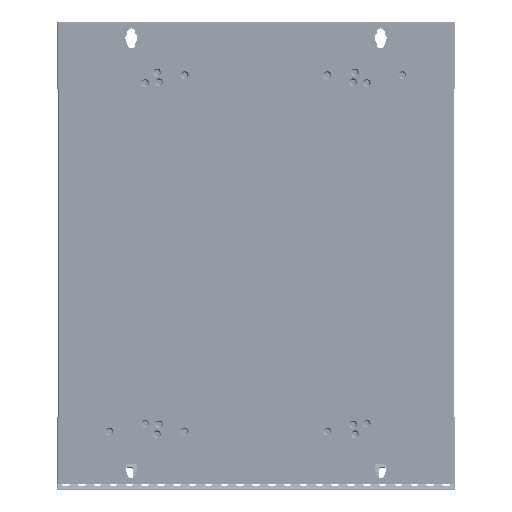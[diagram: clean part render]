
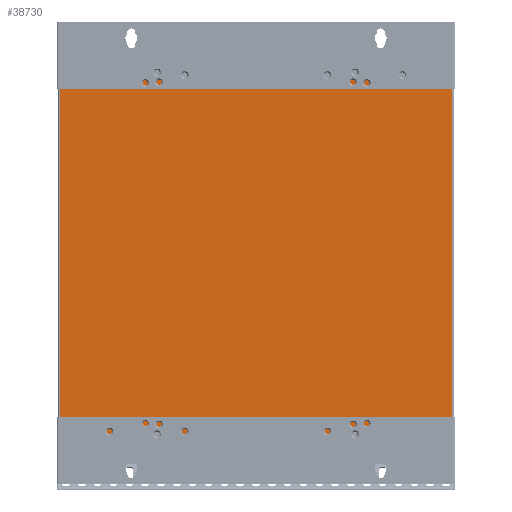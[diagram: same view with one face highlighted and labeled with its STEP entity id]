
A CAD part, front view. The second image highlights one B-rep face of the part: STEP entity #38730.
In plain terms, the highlighted planar face has unit normal (0, -1, 0).
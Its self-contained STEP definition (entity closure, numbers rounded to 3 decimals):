
#2496 = ORIENTED_EDGE ( 'NONE', *, *, #44353, .F. ) ;
#12568 = CARTESIAN_POINT ( 'NONE',  ( 0., -1.5, 0. ) ) ;
#13505 = LINE ( 'NONE', #325755, #313152 ) ;
#29346 = EDGE_LOOP ( 'NONE', ( #158416, #287495 ) ) ;
#30083 = ORIENTED_EDGE ( 'NONE', *, *, #270775, .T. ) ;
#38730 = ADVANCED_FACE ( 'NONE', ( #324784, #207414, #244905 ), #247348, .T. ) ;
#44353 = EDGE_CURVE ( 'NONE', #311889, #63124, #159519, .T. ) ;
#61116 = DIRECTION ( 'NONE',  ( 0., -1., 0. ) ) ;
#63124 = VERTEX_POINT ( 'NONE', #479293 ) ;
#83478 = CIRCLE ( 'NONE', #251126, 3.25 ) ;
#84784 = EDGE_CURVE ( 'NONE', #358347, #171177, #215597, .T. ) ;
#98345 = DIRECTION ( 'NONE',  ( 0., -1., 0. ) ) ;
#104335 = EDGE_LOOP ( 'NONE', ( #382303, #2496 ) ) ;
#112989 = CARTESIAN_POINT ( 'NONE',  ( 248., -1.5, -228.5 ) ) ;
#115279 = VERTEX_POINT ( 'NONE', #431906 ) ;
#129189 = DIRECTION ( 'NONE',  ( 0., -1., 0. ) ) ;
#129217 = LINE ( 'NONE', #249036, #156206 ) ;
#144990 = CARTESIAN_POINT ( 'NONE',  ( -125., -1.5, -220. ) ) ;
#152453 = CARTESIAN_POINT ( 'NONE',  ( -125., -1.5, -216.75 ) ) ;
#156206 = VECTOR ( 'NONE', #174081, 1000. ) ;
#158416 = ORIENTED_EDGE ( 'NONE', *, *, #195045, .F. ) ;
#158446 = EDGE_CURVE ( 'NONE', #420510, #115279, #292536, .T. ) ;
#159519 = CIRCLE ( 'NONE', #438881, 3.25 ) ;
#159964 = AXIS2_PLACEMENT_3D ( 'NONE', #144990, #262347, #482489 ) ;
#160581 = EDGE_CURVE ( 'NONE', #192821, #115279, #129217, .T. ) ;
#165965 = DIRECTION ( 'NONE',  ( -1., 0., 0. ) ) ;
#168019 = CARTESIAN_POINT ( 'NONE',  ( -248., -1.5, 226.9 ) ) ;
#171177 = VERTEX_POINT ( 'NONE', #152453 ) ;
#174081 = DIRECTION ( 'NONE',  ( -1., 0., 0. ) ) ;
#180109 = DIRECTION ( 'NONE',  ( 0., 0., -1. ) ) ;
#192821 = VERTEX_POINT ( 'NONE', #112989 ) ;
#195045 = EDGE_CURVE ( 'NONE', #171177, #358347, #317490, .T. ) ;
#200015 = EDGE_CURVE ( 'NONE', #476748, #420510, #13505, .T. ) ;
#206842 = EDGE_CURVE ( 'NONE', #63124, #311889, #83478, .T. ) ;
#207414 = FACE_BOUND ( 'NONE', #29346, .T. ) ;
#208393 = DIRECTION ( 'NONE',  ( 0., 0., -1. ) ) ;
#215597 = CIRCLE ( 'NONE', #159964, 3.25 ) ;
#240401 = AXIS2_PLACEMENT_3D ( 'NONE', #12568, #469894, #477253 ) ;
#244905 = FACE_OUTER_BOUND ( 'NONE', #337940, .T. ) ;
#247348 = PLANE ( 'NONE',  #240401 ) ;
#249036 = CARTESIAN_POINT ( 'NONE',  ( -250., -1.5, -228.5 ) ) ;
#250965 = CARTESIAN_POINT ( 'NONE',  ( 125., -1.5, -223.25 ) ) ;
#251126 = AXIS2_PLACEMENT_3D ( 'NONE', #400803, #98345, #208393 ) ;
#259833 = CARTESIAN_POINT ( 'NONE',  ( 248., -1.5, -228.5 ) ) ;
#262347 = DIRECTION ( 'NONE',  ( 0., -1., 0. ) ) ;
#270775 = EDGE_CURVE ( 'NONE', #192821, #476748, #284992, .T. ) ;
#274652 = VECTOR ( 'NONE', #180109, 1000. ) ;
#284992 = LINE ( 'NONE', #259833, #314953 ) ;
#287495 = ORIENTED_EDGE ( 'NONE', *, *, #84784, .F. ) ;
#292536 = LINE ( 'NONE', #330054, #274652 ) ;
#311889 = VERTEX_POINT ( 'NONE', #250965 ) ;
#313152 = VECTOR ( 'NONE', #165965, 1000. ) ;
#314953 = VECTOR ( 'NONE', #324941, 1000. ) ;
#317490 = CIRCLE ( 'NONE', #397077, 3.25 ) ;
#324784 = FACE_BOUND ( 'NONE', #104335, .T. ) ;
#324941 = DIRECTION ( 'NONE',  ( 0., 0., 1. ) ) ;
#325755 = CARTESIAN_POINT ( 'NONE',  ( 248., -1.5, 226.9 ) ) ;
#329165 = ORIENTED_EDGE ( 'NONE', *, *, #160581, .F. ) ;
#330054 = CARTESIAN_POINT ( 'NONE',  ( -248., -1.5, 228.5 ) ) ;
#337940 = EDGE_LOOP ( 'NONE', ( #30083, #379399, #365998, #329165 ) ) ;
#358212 = CARTESIAN_POINT ( 'NONE',  ( -125., -1.5, -223.25 ) ) ;
#358347 = VERTEX_POINT ( 'NONE', #358212 ) ;
#365998 = ORIENTED_EDGE ( 'NONE', *, *, #158446, .T. ) ;
#377309 = CARTESIAN_POINT ( 'NONE',  ( 248., -1.5, 226.9 ) ) ;
#379399 = ORIENTED_EDGE ( 'NONE', *, *, #200015, .T. ) ;
#382303 = ORIENTED_EDGE ( 'NONE', *, *, #206842, .F. ) ;
#397077 = AXIS2_PLACEMENT_3D ( 'NONE', #471571, #129189, #438979 ) ;
#398596 = DIRECTION ( 'NONE',  ( 0., 0., -1. ) ) ;
#400803 = CARTESIAN_POINT ( 'NONE',  ( 125., -1.5, -220. ) ) ;
#405962 = CARTESIAN_POINT ( 'NONE',  ( 125., -1.5, -220. ) ) ;
#420510 = VERTEX_POINT ( 'NONE', #168019 ) ;
#431906 = CARTESIAN_POINT ( 'NONE',  ( -248., -1.5, -228.5 ) ) ;
#438881 = AXIS2_PLACEMENT_3D ( 'NONE', #405962, #61116, #398596 ) ;
#438979 = DIRECTION ( 'NONE',  ( 0., 0., -1. ) ) ;
#469894 = DIRECTION ( 'NONE',  ( 0., -1., 0. ) ) ;
#471571 = CARTESIAN_POINT ( 'NONE',  ( -125., -1.5, -220. ) ) ;
#476748 = VERTEX_POINT ( 'NONE', #377309 ) ;
#477253 = DIRECTION ( 'NONE',  ( 0., 0., -1. ) ) ;
#479293 = CARTESIAN_POINT ( 'NONE',  ( 125., -1.5, -216.75 ) ) ;
#482489 = DIRECTION ( 'NONE',  ( 0., 0., -1. ) ) ;
